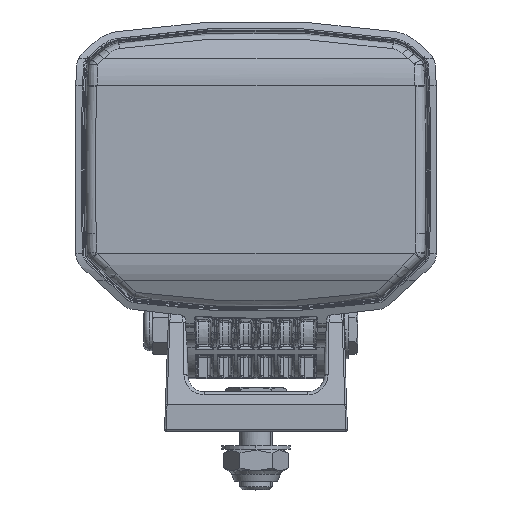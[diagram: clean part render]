
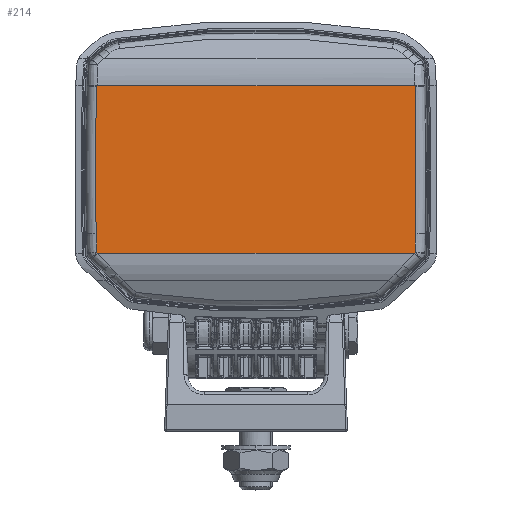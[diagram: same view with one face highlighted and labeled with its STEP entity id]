
A CAD part, top view. The second image highlights one B-rep face of the part: STEP entity #214.
In plain terms, the highlighted free-form (B-spline) face has degree [5, 5] with [6, 6] control points.
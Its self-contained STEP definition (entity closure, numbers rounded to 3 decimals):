
#27=CARTESIAN_POINT('',(-49.314,-25.566,27.));
#28=CARTESIAN_POINT('',(-29.594,-25.566,27.));
#29=CARTESIAN_POINT('',(-9.874,-25.566,27.));
#30=CARTESIAN_POINT('',(9.847,-25.566,27.));
#31=CARTESIAN_POINT('',(29.567,-25.566,27.));
#32=CARTESIAN_POINT('',(49.287,-25.566,27.));
#33=CARTESIAN_POINT('',(-49.314,-15.34,27.));
#34=CARTESIAN_POINT('',(-29.594,-15.34,27.));
#35=CARTESIAN_POINT('',(-9.874,-15.34,27.));
#36=CARTESIAN_POINT('',(9.847,-15.34,27.));
#37=CARTESIAN_POINT('',(29.567,-15.34,27.));
#38=CARTESIAN_POINT('',(49.287,-15.34,27.));
#39=CARTESIAN_POINT('',(-49.314,-5.113,27.));
#40=CARTESIAN_POINT('',(-29.594,-5.113,27.));
#41=CARTESIAN_POINT('',(-9.874,-5.113,27.));
#42=CARTESIAN_POINT('',(9.847,-5.113,27.));
#43=CARTESIAN_POINT('',(29.567,-5.113,27.));
#44=CARTESIAN_POINT('',(49.287,-5.113,27.));
#45=CARTESIAN_POINT('',(-49.314,5.113,27.));
#46=CARTESIAN_POINT('',(-29.594,5.113,27.));
#47=CARTESIAN_POINT('',(-9.874,5.113,27.));
#48=CARTESIAN_POINT('',(9.847,5.113,27.));
#49=CARTESIAN_POINT('',(29.567,5.113,27.));
#50=CARTESIAN_POINT('',(49.287,5.113,27.));
#51=CARTESIAN_POINT('',(-49.314,15.34,27.));
#52=CARTESIAN_POINT('',(-29.594,15.34,27.));
#53=CARTESIAN_POINT('',(-9.874,15.34,27.));
#54=CARTESIAN_POINT('',(9.847,15.34,27.));
#55=CARTESIAN_POINT('',(29.567,15.34,27.));
#56=CARTESIAN_POINT('',(49.287,15.34,27.));
#57=CARTESIAN_POINT('',(-49.314,25.566,27.));
#58=CARTESIAN_POINT('',(-29.594,25.566,27.));
#59=CARTESIAN_POINT('',(-9.874,25.566,27.));
#60=CARTESIAN_POINT('',(9.847,25.566,27.));
#61=CARTESIAN_POINT('',(29.567,25.566,27.));
#62=CARTESIAN_POINT('',(49.287,25.566,27.));
#63=B_SPLINE_SURFACE_WITH_KNOTS('',5,5,((#27,#28,#29,#30,#31,#32),(#33,#34,#35,#36,#37,#38),(#39,#40,#41,#42,#43,#44),(#45,#46,#47,#48,#49,#50),(#51,#52,#53,#54,#55,#56),(#57,#58,#59,#60,#61,#62)),.UNSPECIFIED.,.F.,.F.,.U.,(6,6),(6,6),(0.004,0.056),(0.041,0.139),.UNSPECIFIED.);
#64=CARTESIAN_POINT('',(48.668,25.468,27.));
#65=VERTEX_POINT('',#64);
#66=CARTESIAN_POINT('',(48.664,25.566,27.));
#67=VERTEX_POINT('',#66);
#68=CARTESIAN_POINT('',(48.668,25.468,27.));
#69=CARTESIAN_POINT('',(48.667,25.501,27.));
#70=CARTESIAN_POINT('',(48.665,25.533,27.));
#71=CARTESIAN_POINT('',(48.664,25.566,27.));
#72=B_SPLINE_CURVE_WITH_KNOTS('',3,(#68,#69,#70,#71),.UNSPECIFIED.,.F.,.F.,(4,4),(0.001,0.001),.UNSPECIFIED.);
#73=EDGE_CURVE('',#65,#67,#72,.T.);
#74=ORIENTED_EDGE('',*,*,#73,.F.);
#75=CARTESIAN_POINT('',(48.669,25.44,27.));
#76=VERTEX_POINT('',#75);
#77=CARTESIAN_POINT('',(48.669,25.44,27.));
#78=CARTESIAN_POINT('',(48.669,25.449,27.));
#79=CARTESIAN_POINT('',(48.668,25.459,27.));
#80=CARTESIAN_POINT('',(48.668,25.468,27.));
#81=B_SPLINE_CURVE_WITH_KNOTS('',3,(#77,#78,#79,#80),.UNSPECIFIED.,.F.,.F.,(4,4),(0.,0.),.UNSPECIFIED.);
#82=EDGE_CURVE('',#76,#65,#81,.T.);
#83=ORIENTED_EDGE('',*,*,#82,.F.);
#84=CARTESIAN_POINT('',(48.891,-19.596,27.));
#85=VERTEX_POINT('',#84);
#86=CARTESIAN_POINT('',(48.891,-19.596,27.));
#87=CARTESIAN_POINT('',(49.138,-12.092,27.));
#88=CARTESIAN_POINT('',(49.244,-4.584,27.));
#89=CARTESIAN_POINT('',(49.207,2.923,27.));
#90=CARTESIAN_POINT('',(49.17,10.431,27.));
#91=CARTESIAN_POINT('',(48.991,17.938,27.));
#92=CARTESIAN_POINT('',(48.669,25.44,27.));
#93=B_SPLINE_CURVE_WITH_KNOTS('',3,(#86,#87,#88,#89,#90,#91,#92),.UNSPECIFIED.,.F.,.F.,(4,3,4),(0.036,0.087,0.137),.UNSPECIFIED.);
#94=EDGE_CURVE('',#85,#76,#93,.T.);
#95=ORIENTED_EDGE('',*,*,#94,.F.);
#96=CARTESIAN_POINT('',(48.674,-25.366,27.));
#97=VERTEX_POINT('',#96);
#98=CARTESIAN_POINT('',(48.674,-25.366,27.));
#99=CARTESIAN_POINT('',(48.715,-24.404,27.));
#100=CARTESIAN_POINT('',(48.753,-23.449,27.));
#101=CARTESIAN_POINT('',(48.789,-22.489,27.));
#102=CARTESIAN_POINT('',(48.825,-21.528,27.));
#103=CARTESIAN_POINT('',(48.859,-20.562,27.));
#104=CARTESIAN_POINT('',(48.891,-19.596,27.));
#105=B_SPLINE_CURVE_WITH_KNOTS('',3,(#98,#99,#100,#101,#102,#103,#104),.UNSPECIFIED.,.F.,.F.,(4,3,4),(0.023,0.029,0.035),.UNSPECIFIED.);
#106=EDGE_CURVE('',#97,#85,#105,.T.);
#107=ORIENTED_EDGE('',*,*,#106,.F.);
#108=CARTESIAN_POINT('',(48.454,-25.566,27.));
#109=VERTEX_POINT('',#108);
#110=CARTESIAN_POINT('',(48.454,-25.566,27.));
#111=CARTESIAN_POINT('',(48.528,-25.499,27.));
#112=CARTESIAN_POINT('',(48.601,-25.433,27.));
#113=CARTESIAN_POINT('',(48.674,-25.366,27.));
#114=B_SPLINE_CURVE_WITH_KNOTS('',3,(#110,#111,#112,#113),.UNSPECIFIED.,.F.,.F.,(4,4),(0.007,0.007),.UNSPECIFIED.);
#115=EDGE_CURVE('',#109,#97,#114,.T.);
#116=ORIENTED_EDGE('',*,*,#115,.F.);
#117=CARTESIAN_POINT('',(-48.454,-25.566,27.));
#118=VERTEX_POINT('',#117);
#119=CARTESIAN_POINT('',(48.454,-25.566,27.));
#120=DIRECTION('',(-1.,0.,-0.));
#121=VECTOR('',#120,96.908);
#122=LINE('',#119,#121);
#123=EDGE_CURVE('',#109,#118,#122,.T.);
#124=ORIENTED_EDGE('',*,*,#123,.T.);
#125=CARTESIAN_POINT('',(-48.674,-25.366,27.));
#126=VERTEX_POINT('',#125);
#127=CARTESIAN_POINT('',(-48.674,-25.366,27.));
#128=CARTESIAN_POINT('',(-48.601,-25.433,27.));
#129=CARTESIAN_POINT('',(-48.528,-25.499,27.));
#130=CARTESIAN_POINT('',(-48.454,-25.566,27.));
#131=B_SPLINE_CURVE_WITH_KNOTS('',3,(#127,#128,#129,#130),.UNSPECIFIED.,.F.,.F.,(4,4),(0.016,0.017),.UNSPECIFIED.);
#132=EDGE_CURVE('',#126,#118,#131,.T.);
#133=ORIENTED_EDGE('',*,*,#132,.F.);
#134=CARTESIAN_POINT('',(-48.891,-19.596,27.));
#135=VERTEX_POINT('',#134);
#136=CARTESIAN_POINT('',(-48.891,-19.596,27.));
#137=CARTESIAN_POINT('',(-48.887,-19.719,27.));
#138=CARTESIAN_POINT('',(-48.883,-19.842,27.));
#139=CARTESIAN_POINT('',(-48.879,-19.965,27.));
#140=CARTESIAN_POINT('',(-48.876,-20.027,27.));
#141=CARTESIAN_POINT('',(-48.874,-20.089,27.));
#142=CARTESIAN_POINT('',(-48.872,-20.15,27.));
#143=CARTESIAN_POINT('',(-48.871,-20.181,27.));
#144=CARTESIAN_POINT('',(-48.87,-20.212,27.));
#145=CARTESIAN_POINT('',(-48.869,-20.242,27.));
#146=CARTESIAN_POINT('',(-48.868,-20.272,27.));
#147=CARTESIAN_POINT('',(-48.867,-20.3,27.));
#148=CARTESIAN_POINT('',(-48.866,-20.327,27.));
#149=CARTESIAN_POINT('',(-48.865,-20.355,27.));
#150=CARTESIAN_POINT('',(-48.864,-20.382,27.));
#151=CARTESIAN_POINT('',(-48.863,-20.411,27.));
#152=CARTESIAN_POINT('',(-48.862,-20.44,27.));
#153=CARTESIAN_POINT('',(-48.861,-20.471,27.));
#154=CARTESIAN_POINT('',(-48.86,-20.503,27.));
#155=CARTESIAN_POINT('',(-48.858,-20.566,27.));
#156=CARTESIAN_POINT('',(-48.856,-20.63,27.));
#157=CARTESIAN_POINT('',(-48.854,-20.692,27.));
#158=CARTESIAN_POINT('',(-48.849,-20.817,27.));
#159=CARTESIAN_POINT('',(-48.845,-20.939,27.));
#160=CARTESIAN_POINT('',(-48.841,-21.062,27.));
#161=CARTESIAN_POINT('',(-48.824,-21.552,27.));
#162=CARTESIAN_POINT('',(-48.806,-22.038,27.));
#163=CARTESIAN_POINT('',(-48.788,-22.514,27.));
#164=CARTESIAN_POINT('',(-48.77,-22.991,27.));
#165=CARTESIAN_POINT('',(-48.752,-23.46,27.));
#166=CARTESIAN_POINT('',(-48.733,-23.931,27.));
#167=CARTESIAN_POINT('',(-48.714,-24.402,27.));
#168=CARTESIAN_POINT('',(-48.695,-24.876,27.));
#169=CARTESIAN_POINT('',(-48.674,-25.366,27.));
#170=B_SPLINE_CURVE_WITH_KNOTS('',3,(#136,#137,#138,#139,#140,#141,#142,#143,#144,#145,#146,#147,#148,#149,#150,#151,#152,#153,#154,#155,#156,#157,#158,#159,#160,#161,
#162,#163,#164,#165,#166,#167,#168,#169),.UNSPECIFIED.,.F.,.F.,(4,3,3,3,3,3,3,3,3,3,3,4),(0.026,0.027,0.027,0.027,0.028,0.028,0.028,0.028,0.029,0.033,0.036,0.039),.UNSPECIFIED.);
#171=EDGE_CURVE('',#135,#126,#170,.T.);
#172=ORIENTED_EDGE('',*,*,#171,.F.);
#173=CARTESIAN_POINT('',(-48.669,25.44,27.));
#174=VERTEX_POINT('',#173);
#175=CARTESIAN_POINT('',(544.998,0.,27.));
#176=DIRECTION('',(-0.,0.,1.));
#177=DIRECTION('',(0.046,0.999,-0.));
#178=AXIS2_PLACEMENT_3D('',#175,#176,#177);
#179=CIRCLE('',#178,594.212);
#180=EDGE_CURVE('',#174,#135,#179,.T.);
#181=ORIENTED_EDGE('',*,*,#180,.F.);
#182=CARTESIAN_POINT('',(-48.668,25.468,27.));
#183=VERTEX_POINT('',#182);
#184=CARTESIAN_POINT('',(-48.668,25.468,27.));
#185=CARTESIAN_POINT('',(-48.668,25.464,27.));
#186=CARTESIAN_POINT('',(-48.668,25.46,27.));
#187=CARTESIAN_POINT('',(-48.669,25.456,27.));
#188=CARTESIAN_POINT('',(-48.669,25.454,27.));
#189=CARTESIAN_POINT('',(-48.669,25.452,27.));
#190=CARTESIAN_POINT('',(-48.669,25.45,27.));
#191=CARTESIAN_POINT('',(-48.669,25.448,27.));
#192=CARTESIAN_POINT('',(-48.669,25.442,27.));
#193=CARTESIAN_POINT('',(-48.669,25.44,27.));
#194=B_SPLINE_CURVE_WITH_KNOTS('',3,(#184,#185,#186,#187,#188,#189,#190,#191,#192,#193),.UNSPECIFIED.,.F.,.F.,(4,3,3,4),(0.,0.,0.,0.),.UNSPECIFIED.);
#195=EDGE_CURVE('',#183,#174,#194,.T.);
#196=ORIENTED_EDGE('',*,*,#195,.F.);
#197=CARTESIAN_POINT('',(-48.664,25.566,27.));
#198=VERTEX_POINT('',#197);
#199=CARTESIAN_POINT('',(-48.664,25.566,27.));
#200=CARTESIAN_POINT('',(-48.665,25.533,27.));
#201=CARTESIAN_POINT('',(-48.667,25.501,27.));
#202=CARTESIAN_POINT('',(-48.668,25.468,27.));
#203=B_SPLINE_CURVE_WITH_KNOTS('',3,(#199,#200,#201,#202),.UNSPECIFIED.,.F.,.F.,(4,4),(0.002,0.002),.UNSPECIFIED.);
#204=EDGE_CURVE('',#198,#183,#203,.T.);
#205=ORIENTED_EDGE('',*,*,#204,.F.);
#206=CARTESIAN_POINT('',(48.664,25.566,27.));
#207=DIRECTION('',(-1.,0.,-0.));
#208=VECTOR('',#207,97.328);
#209=LINE('',#206,#208);
#210=EDGE_CURVE('',#67,#198,#209,.T.);
#211=ORIENTED_EDGE('',*,*,#210,.F.);
#212=EDGE_LOOP('',(#74,#83,#95,#107,#116,#124,#133,#172,#181,#196,#205,#211));
#213=FACE_BOUND('',#212,.F.);
#214=ADVANCED_FACE('',(#213),#63,.F.);
